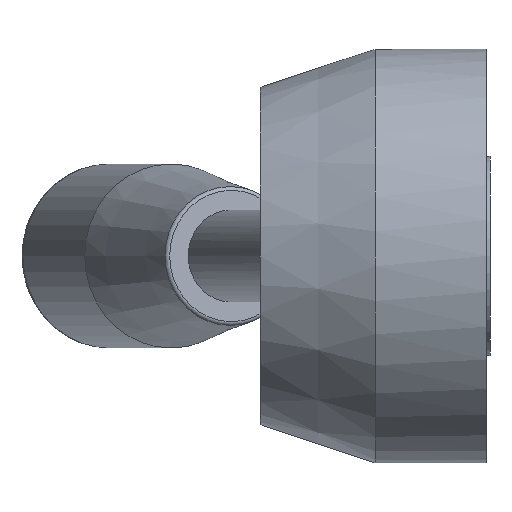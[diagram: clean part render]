
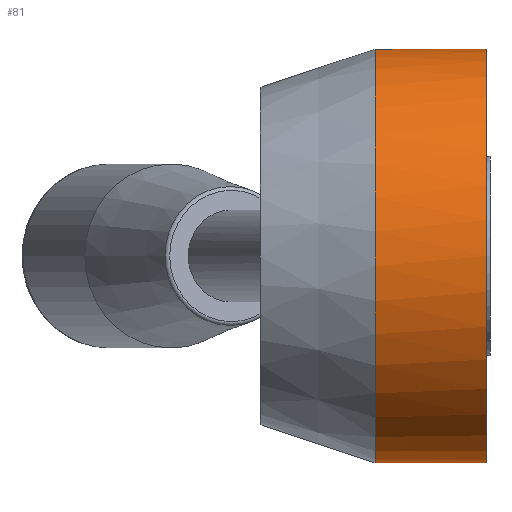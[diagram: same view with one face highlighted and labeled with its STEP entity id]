
A CAD part, left-side view. The second image highlights one B-rep face of the part: STEP entity #81.
In plain terms, the highlighted cylindrical face has radius 27 mm (diameter 54 mm), a full revolution.
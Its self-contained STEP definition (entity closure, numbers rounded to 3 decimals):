
#81 = ADVANCED_FACE( '', ( #135, #136 ), #137, .T. );
#135 = FACE_OUTER_BOUND( '', #236, .T. );
#136 = FACE_OUTER_BOUND( '', #237, .T. );
#137 = CYLINDRICAL_SURFACE( '', #238, 27. );
#236 = EDGE_LOOP( '', ( #369 ) );
#237 = EDGE_LOOP( '', ( #370, #371, #372, #373 ) );
#238 = AXIS2_PLACEMENT_3D( '', #374, #375, #376 );
#369 = ORIENTED_EDGE( '', *, *, #596, .F. );
#370 = ORIENTED_EDGE( '', *, *, #584, .F. );
#371 = ORIENTED_EDGE( '', *, *, #603, .T. );
#372 = ORIENTED_EDGE( '', *, *, #573, .F. );
#373 = ORIENTED_EDGE( '', *, *, #604, .F. );
#374 = CARTESIAN_POINT( '', ( 0., 0., 0. ) );
#375 = DIRECTION( '', ( 0., 1., 0. ) );
#376 = DIRECTION( '', ( 0., 0., -1. ) );
#573 = EDGE_CURVE( '', #644, #645, #646, .F. );
#584 = EDGE_CURVE( '', #663, #665, #666, .T. );
#596 = EDGE_CURVE( '', #688, #688, #689, .T. );
#603 = EDGE_CURVE( '', #663, #645, #702, .T. );
#604 = EDGE_CURVE( '', #665, #644, #703, .T. );
#644 = VERTEX_POINT( '', #763 );
#645 = VERTEX_POINT( '', #764 );
#646 = LINE( '', #765, #766 );
#663 = VERTEX_POINT( '', #793 );
#665 = VERTEX_POINT( '', #798 );
#666 = LINE( '', #799, #800 );
#688 = VERTEX_POINT( '', #826 );
#689 = CIRCLE( '', #827, 27. );
#702 = CIRCLE( '', #840, 27. );
#703 = CIRCLE( '', #841, 27. );
#763 = CARTESIAN_POINT( '', ( 23.867, 3., -12.624 ) );
#764 = CARTESIAN_POINT( '', ( 23.867, 15., -12.624 ) );
#765 = CARTESIAN_POINT( '', ( 23.867, 0., -12.624 ) );
#766 = VECTOR( '', #916, 1000. );
#793 = CARTESIAN_POINT( '', ( 23.867, 15., 12.624 ) );
#798 = CARTESIAN_POINT( '', ( 23.867, 3., 12.624 ) );
#799 = CARTESIAN_POINT( '', ( 23.867, 0., 12.624 ) );
#800 = VECTOR( '', #927, 1000. );
#826 = CARTESIAN_POINT( '', ( 0., 0.5, -27. ) );
#827 = AXIS2_PLACEMENT_3D( '', #953, #954, #955 );
#840 = AXIS2_PLACEMENT_3D( '', #974, #975, #976 );
#841 = AXIS2_PLACEMENT_3D( '', #977, #978, #979 );
#916 = DIRECTION( '', ( 0., -1., 0. ) );
#927 = DIRECTION( '', ( 0., -1., 0. ) );
#953 = CARTESIAN_POINT( '', ( 0., 0.5, 0. ) );
#954 = DIRECTION( '', ( 0., -1., 0. ) );
#955 = DIRECTION( '', ( 0., 0., -1. ) );
#974 = CARTESIAN_POINT( '', ( 0., 15., 0. ) );
#975 = DIRECTION( '', ( 0., -1., 0. ) );
#976 = DIRECTION( '', ( 0., 0., -1. ) );
#977 = CARTESIAN_POINT( '', ( 0., 3., 0. ) );
#978 = DIRECTION( '', ( 0., 1., 0. ) );
#979 = DIRECTION( '', ( 0., 0., 1. ) );
